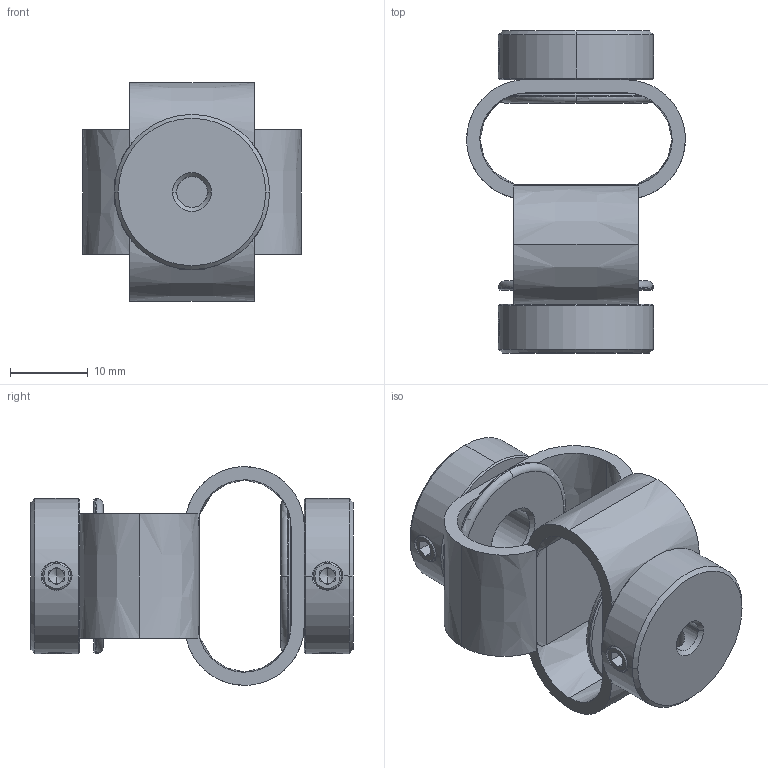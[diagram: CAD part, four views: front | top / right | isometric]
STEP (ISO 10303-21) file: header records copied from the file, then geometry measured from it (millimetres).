
FILE_DESCRIPTION (( 'STEP AP203' ), '1' );
FILE_NAME ('LS-D-D27L40-4-7.STEP', '2021-10-28T06:05:26', ( '' ), ( '' ), 'SwSTEP 2.0', 'SolidWorks 2018', '' );
FILE_SCHEMA (( 'CONFIG_CONTROL_DESIGN' ));
Length unit declared in the file: millimetre
Products named in the file (1): LS-D-D27L40-4-7
Bounding box: 28.2 x 41.54 x 28.2 mm (x, y, z)
Volume: 7350.9 mm3; surface area: 6690.6 mm2
Topology: 1 solids, 1 shells, 190 faces, 493 edges, 308 vertices
Faces by surface type: plane 86, cone 54, cylinder 30, bspline 16, torus 4
Entity records: 7788 total; most frequent: CARTESIAN_POINT 3219, ORIENTED_EDGE 970, DIRECTION 886, EDGE_CURVE 485, AXIS2_PLACEMENT_3D 345, VERTEX_POINT 308, EDGE_LOOP 217, VECTOR 196
